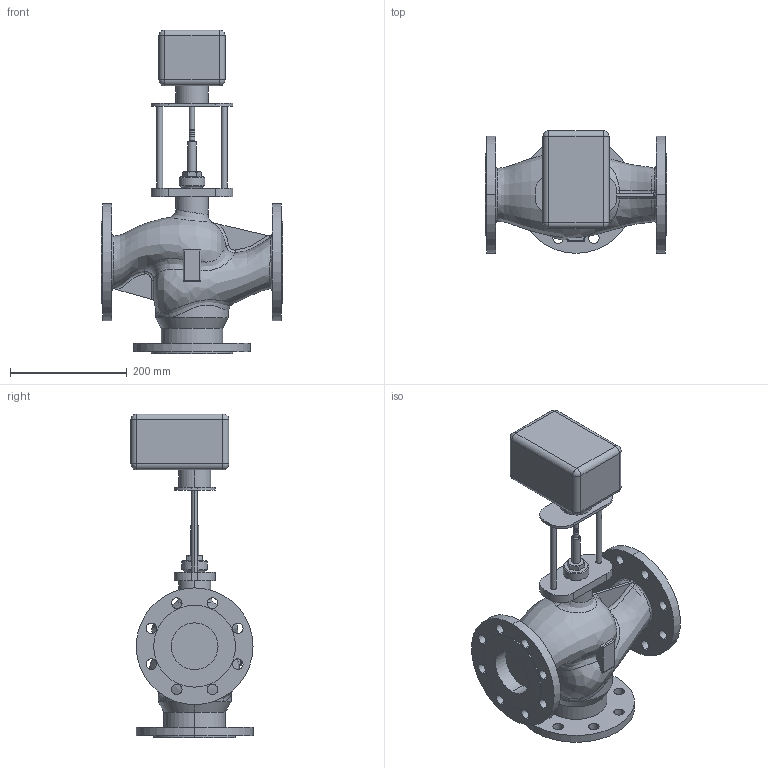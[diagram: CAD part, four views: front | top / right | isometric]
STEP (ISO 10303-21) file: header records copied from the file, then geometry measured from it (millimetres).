
FILE_DESCRIPTION (( 'STEP AP214' ), '1' );
FILE_NAME ('TRV-3-80-X-110.STEP', '2025-12-16T05:25:54', ( '' ), ( '' ), 'SwSTEP 2.0', 'SolidWorks 2023', '' );
FILE_SCHEMA (( 'AUTOMOTIVE_DESIGN' ));
Length unit declared in the file: millimetre
Products named in the file (1): TRV-3-80-X-110
Bounding box: 310 x 209 x 554.5 mm (x, y, z)
Volume: 7267164.8 mm3; surface area: 519860.4 mm2
Topology: 1 solids, 4 shells, 250 faces, 599 edges, 364 vertices
Faces by surface type: cylinder 128, plane 58, bspline 31, cone 19, sphere 12, torus 2
Entity records: 13711 total; most frequent: CARTESIAN_POINT 7976, DIRECTION 1183, ORIENTED_EDGE 1174, EDGE_CURVE 587, AXIS2_PLACEMENT_3D 489, VERTEX_POINT 364, EDGE_LOOP 321, CIRCLE 269
